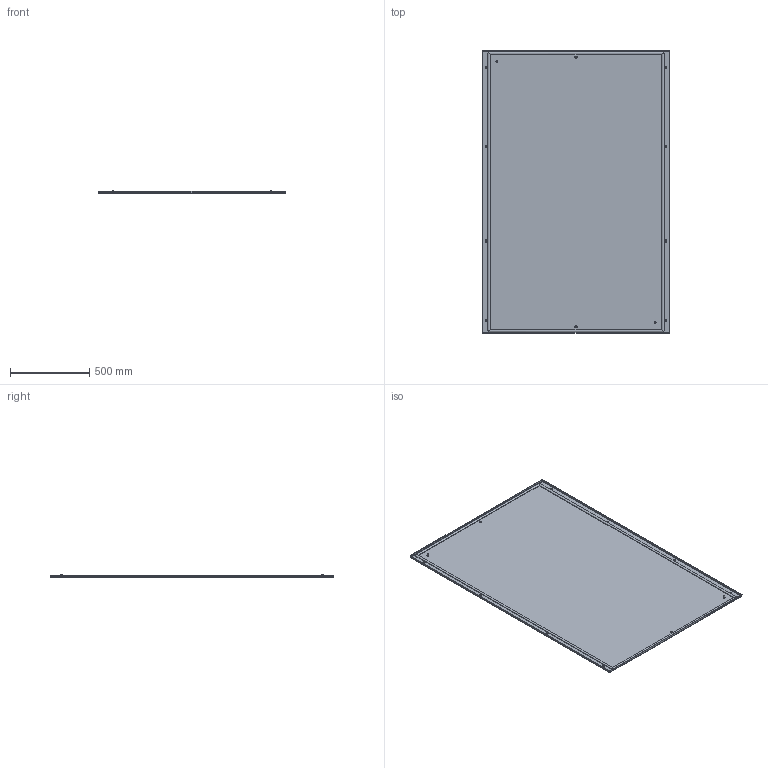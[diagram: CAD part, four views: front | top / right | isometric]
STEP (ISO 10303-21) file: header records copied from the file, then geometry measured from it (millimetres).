
FILE_DESCRIPTION(('STEP AP203'), '1');
FILE_NAME('Ïàíåëü çàäíÿÿ 1800õ1200 ìì IP55 OptiBox M 419672 ÊÝÀÇ', '', ('UNSPECIFIED'), ('UNSPECIFIED'), 'C3D Converter', 'C3D Toolkit', '');
FILE_SCHEMA(('CONFIG_CONTROL_DESIGN'));
Length unit declared in the file: millimetre
Bounding box: 1186 x 1786 x 18.9 mm (x, y, z)
Volume: 3591241.9 mm3; surface area: 4613964.8 mm2
Topology: 4 solids, 4 shells, 147 faces, 302 edges, 180 vertices
Faces by surface type: plane 81, cylinder 58, bspline 8
Full cylindrical faces by diameter (mm): 0.75 x2, 1 x2, 6.3 x10, 8 x2, 9.3 x2, 13 x2, 13.5 x10
Entity records: 6048 total; most frequent: CARTESIAN_POINT 1976, DIRECTION 600, ORIENTED_EDGE 544, EDGE_CURVE 272, AXIS2_PLACEMENT_3D 224, EDGE_LOOP 216, VERTEX_POINT 180, FACE_BOUND 156
